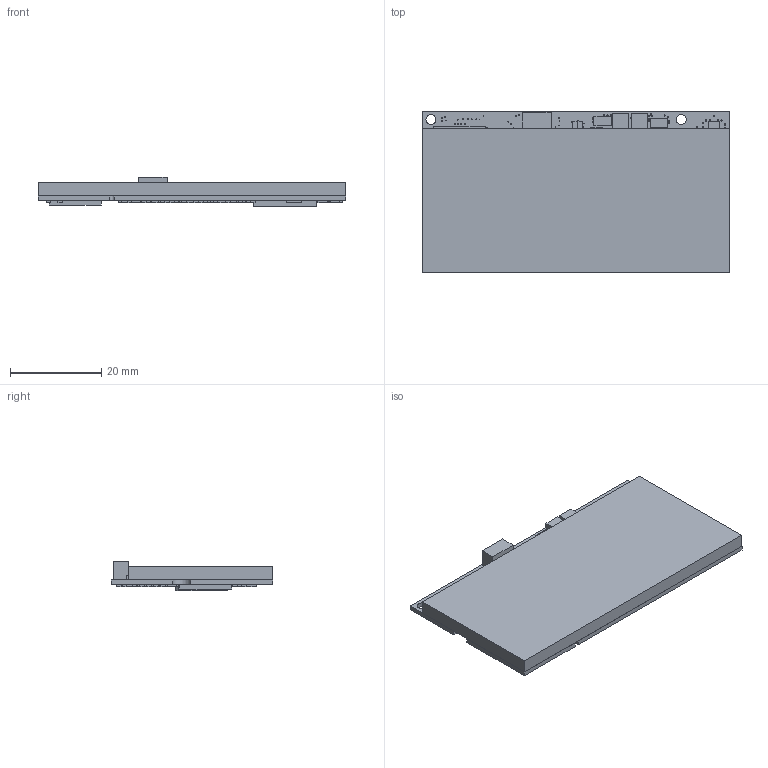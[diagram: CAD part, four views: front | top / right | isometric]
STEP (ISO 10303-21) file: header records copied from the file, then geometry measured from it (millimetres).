
FILE_DESCRIPTION (( 'STEP AP203' ), '1' );
FILE_NAME ('OMAP375XX_V24_WIFI-step.STEP', '2012-04-16T09:40:57', ( 'gaby' ), ( '' ), 'SwSTEP 2.0', 'SolidWorks 2011', '' );
FILE_SCHEMA (( 'CONFIG_CONTROL_DESIGN' ));
Products named in the file (1): OMAP375XX_V24_WIFI-step
Bounding box: 67.6 x 35.57 x 6.43 mm (x, y, z)
Volume: 10596.8 mm3; surface area: 15239.3 mm2
Topology: 213 solids, 213 shells, 3515 faces, 9267 edges, 6178 vertices
Faces by surface type: cylinder 2218, plane 1297
Entity records: 114714 total; most frequent: DIRECTION 20735, CARTESIAN_POINT 18961, ORIENTED_EDGE 18534, EDGE_CURVE 9267, AXIS2_PLACEMENT_3D 7952, VERTEX_POINT 6178, EDGE_LOOP 5727, VECTOR 4831
